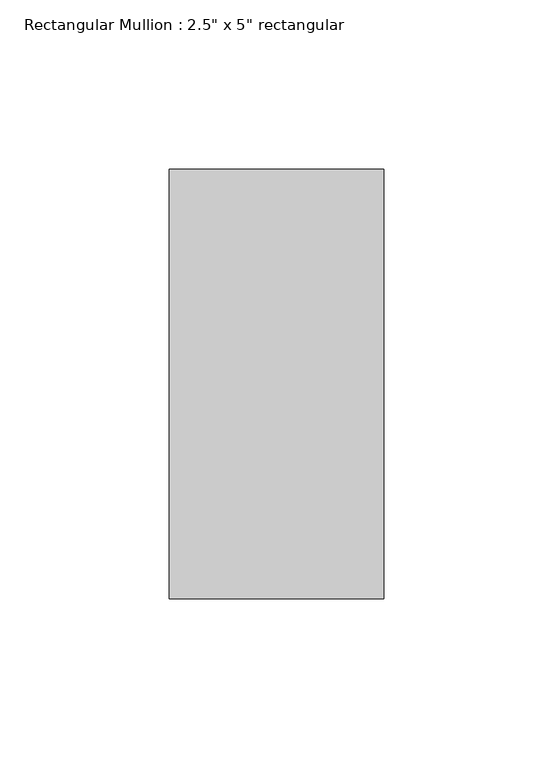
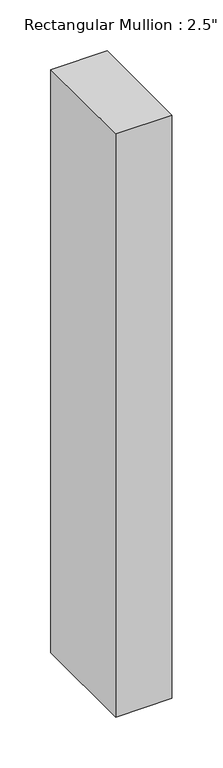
"""IFC4 building model written with IfcOpenShell, lengths in millimetres: member geometry."""

from ifc_helpers import new_model, si_unit, frame, origin, place, context, project, spatial, polyline, outline, extrude, source, transform, mapped, element, save


def member_2cf29476(model_context):
    return source(origin(), model_context, "Body", "SweptSolid", [
        extrude(outline(polyline([(31.75, 63.5), (31.75, -63.5), (-31.75, -63.5), (-31.75, 63.5), (31.75, 63.5)])), frame((0.0, 0.0, -698.3262753), z_axis=(0.0, 0.0, 1.0), x_axis=(1.0, 0.0, 0.0)), (0.0, 0.0, 1.0), 698.3262753),
    ])


if __name__ == "__main__":
    model = new_model("IFC4")
    model_context = context("Model", 3, world=origin())
    ifc_project = project(units=[si_unit("LENGTHUNIT", "METRE", prefix="MILLI")], contexts=[model_context])
    site = spatial("IfcSite", under=ifc_project)
    building = spatial("IfcBuilding", under=site)
    placement = place(None, origin())
    member_shape = member_2cf29476(model_context)
    element("IfcMember", 1, ObjectType="Rectangular Mullion : 2.5\" x 5\" rectangular", at=placement, inside=building, context=model_context, shape_type="MappedRepresentation", body=[
        mapped(member_shape, transform((0.0, 0.0, 0.0), x_axis=(1.0, 0.0, 0.0), y_axis=(0.0, 1.0, 0.0), z_axis=(0.0, 0.0, 1.0))),
    ])
    save(model, "model.ifc")
